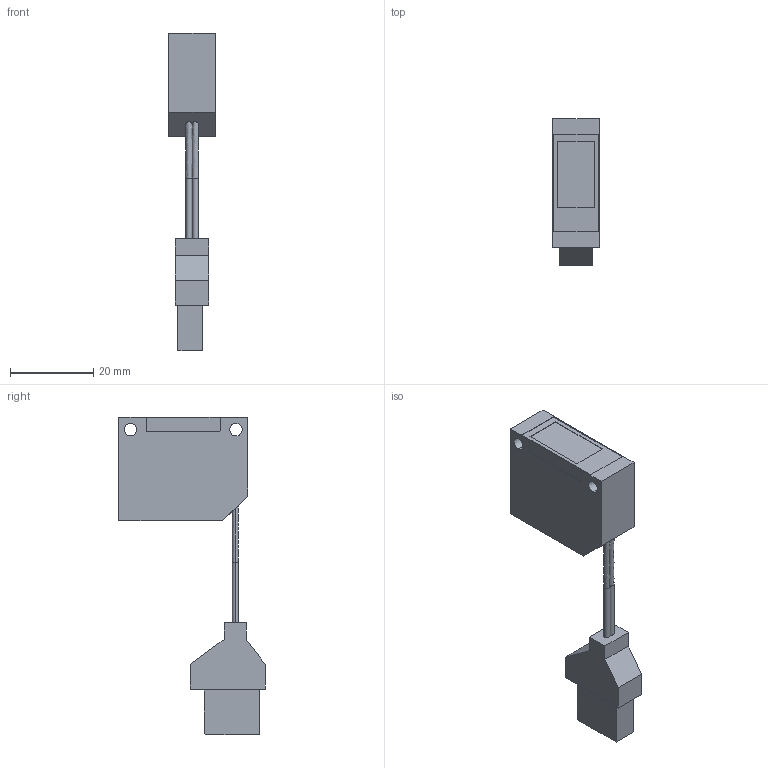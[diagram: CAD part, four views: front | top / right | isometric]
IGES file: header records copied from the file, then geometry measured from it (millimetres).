
Start section: SolidWorks IGES FILE using analytic representation for surfaces
Global section: file name: C:\Documents and Settings\yk0651\デスクトップ\3D_catalog_050929\0_IGES\LS-H21.IGS; native system: SolidWorks 2004 by SolidWorks Corporation; preprocessor: Version 5.3; author: yk0651; date: 051001.151821; units: millimetre
Bounding box: 11.2 x 35.25 x 76.5 mm (x, y, z)
Volume: 9488.3 mm3; surface area: 6046 mm2
Topology: 3 solids, 3 shells, 121 faces, 315 edges, 210 vertices
Faces by surface type: plane 92, revolution 29
